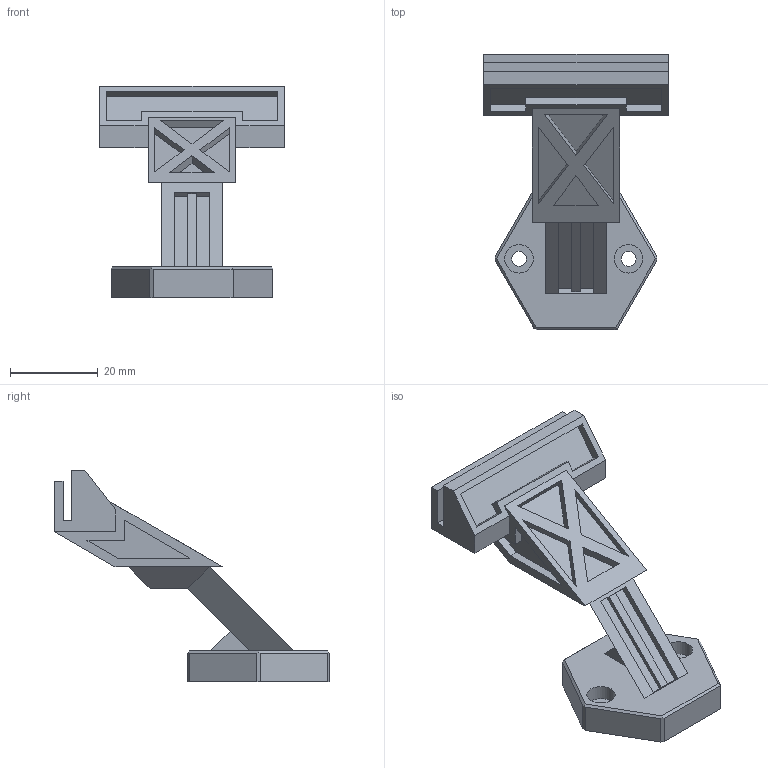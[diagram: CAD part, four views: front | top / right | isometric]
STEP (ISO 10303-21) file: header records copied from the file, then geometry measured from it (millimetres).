
FILE_DESCRIPTION(/* description */ (''),/* implementation_level */ '2;1');
FILE_NAME(/* name */ '/Users/simonhu/OneDrive - FH JOANNEUM/5Semsester/Projekt/3D/turret_final/leg_3.step',/* time_stamp */ '2022-01-27T19:31:46+01:00',/* author */ (''),/* organization */ (''),/* preprocessor_version */ 'ST-DEVELOPER v18.1',/* originating_system */ 'Autodesk Translation Framework v10.13.0.1454',/* authorisation */ '');
FILE_SCHEMA (('AUTOMOTIVE_DESIGN { 1 0 10303 214 3 1 1 }'));
Length unit declared in the file: millimetre
Products named in the file (1): turret_base_jan
Bounding box: 42.19 x 62.85 x 48.21 mm (x, y, z)
Volume: 17086.3 mm3; surface area: 9073.7 mm2
Topology: 1 solids, 1 shells, 100 faces, 251 edges, 165 vertices
Faces by surface type: plane 96, cylinder 4
Full cylindrical faces by diameter (mm): 3.4 x2, 6.5 x2
Entity records: 2957 total; most frequent: CARTESIAN_POINT 517, ORIENTED_EDGE 502, DIRECTION 461, EDGE_CURVE 251, LINE 243, VECTOR 243, VERTEX_POINT 165, EDGE_LOOP 116
